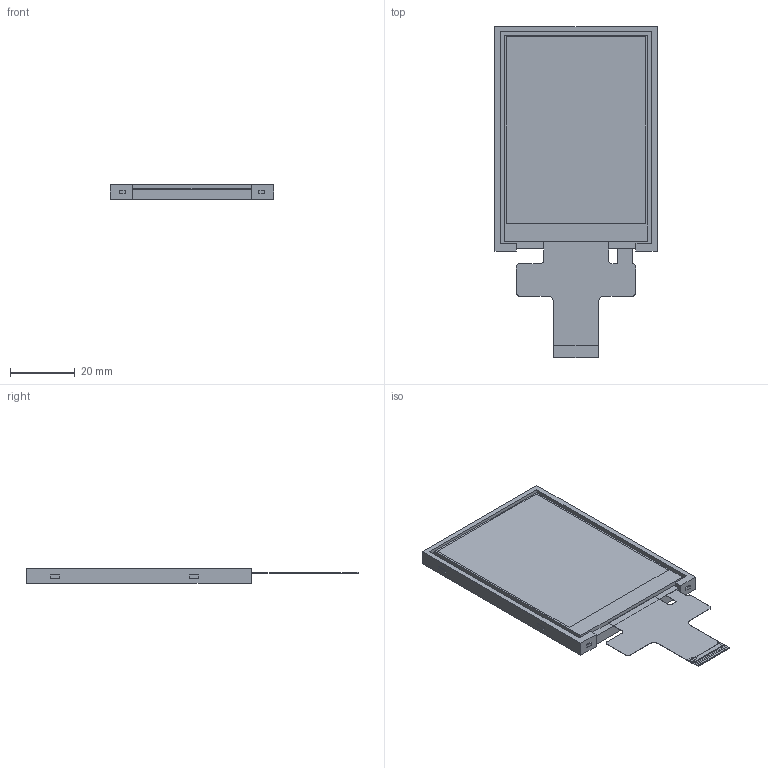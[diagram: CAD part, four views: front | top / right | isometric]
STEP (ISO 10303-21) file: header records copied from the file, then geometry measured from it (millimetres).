
FILE_DESCRIPTION (( 'STEP AP214' ), '1' );
FILE_NAME ('CFAF240320J0-028TN.STEP', '2024-02-08T21:38:32', ( '' ), ( '' ), 'SwSTEP 2.0', 'SolidWorks 2021', '' );
FILE_SCHEMA (( 'AUTOMOTIVE_DESIGN' ));
Length unit declared in the file: millimetre
Products named in the file (1): CFAF240320J0-028TN
Bounding box: 50.5 x 102.45 x 4.55 mm (x, y, z)
Volume: 15309.2 mm3; surface area: 10074.9 mm2
Topology: 2 solids, 2 shells, 928 faces, 2521 edges, 1682 vertices
Faces by surface type: plane 813, bspline 107, cylinder 8
Entity records: 35482 total; most frequent: CARTESIAN_POINT 12687, ORIENTED_EDGE 5042, DIRECTION 3967, EDGE_CURVE 2521, LINE 2291, VECTOR 2291, VERTEX_POINT 1682, EDGE_LOOP 1013
